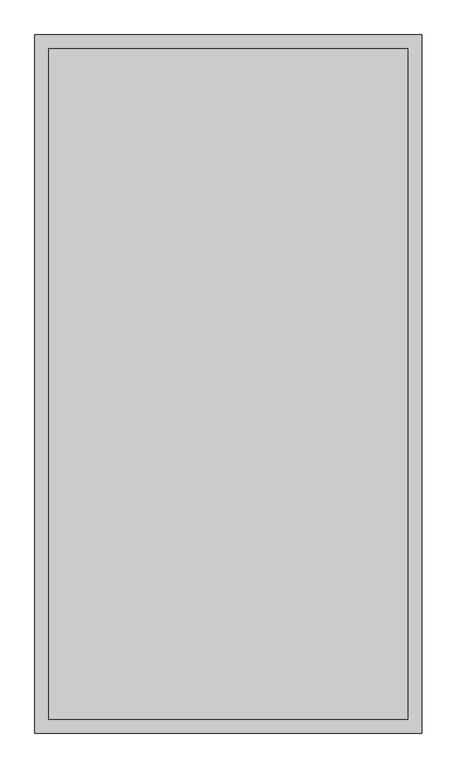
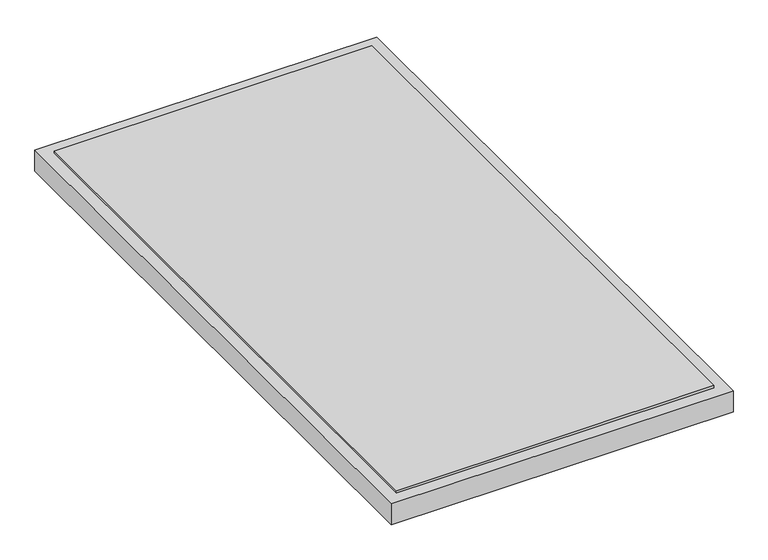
"""IFC4 building model written with IfcOpenShell, lengths in millimetres: proxy geometry, Modèles génériques 1 : Modèles génériques 1."""

from ifc_helpers import new_model, si_unit, frame, origin, place, context, project, spatial, polyline, outline, extrude, source, transform, mapped, element, save


def generic_models_d71c74ea(model_context):
    return source(origin(), model_context, "Body", "SweptSolid", [
        extrude(outline(polyline([(-9394.1693575, -7250.322974), (-10043.5797272, -7250.322974), (-10043.5797272, -6037.6814359), (-9394.1693575, -6037.6814359), (-9394.1693575, -7250.322974)])), frame((0.0, 0.0, 10171.7389843), z_axis=(0.0, 0.0, 1.0), x_axis=(1.0, 0.0, 0.0)), (0.0, 0.0, 1.0), 31.5692899),
        extrude(outline(polyline([(-9369.1693575, -6012.6814359), (-9369.1693575, -7275.322974), (-10068.5797272, -7275.322974), (-10068.5797272, -6012.6814359), (-9369.1693575, -6012.6814359)]), holes=[polyline([(-10018.5797272, -6062.6814359), (-10018.5797272, -7225.322974), (-9419.1693575, -7225.322974), (-9419.1693575, -6062.6814359), (-10018.5797272, -6062.6814359)])]), frame((0.0, 0.0, 10153.3082742), z_axis=(0.0, 0.0, 1.0), x_axis=(1.0, 0.0, 0.0)), (0.0, 0.0, 1.0), 45.0),
    ])


if __name__ == "__main__":
    model = new_model("IFC4")
    model_context = context("Model", 3, world=origin())
    ifc_project = project(units=[si_unit("LENGTHUNIT", "METRE", prefix="MILLI")], contexts=[model_context])
    site = spatial("IfcSite", under=ifc_project)
    building = spatial("IfcBuilding", under=site)
    placement = place(None, origin())
    generic_models_shape = generic_models_d71c74ea(model_context)
    element("IfcBuildingElementProxy", 1, Name="Modèles génériques 1 : Modèles génériques 1", ObjectType="Modèles génériques 1 : Modèles génériques 1", at=placement, inside=building, context=model_context, shape_type="MappedRepresentation", body=[
        mapped(generic_models_shape, transform((0.0, 0.0, 0.0), x_axis=(1.0, 0.0, 0.0), y_axis=(0.0, 1.0, 0.0), z_axis=(0.0, 0.0, 1.0))),
    ])
    save(model, "model.ifc")
